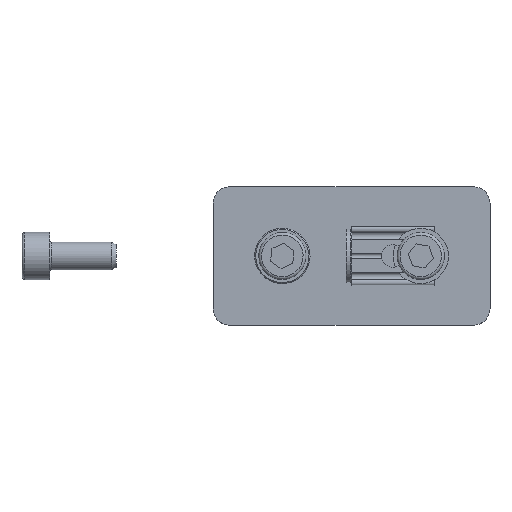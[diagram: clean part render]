
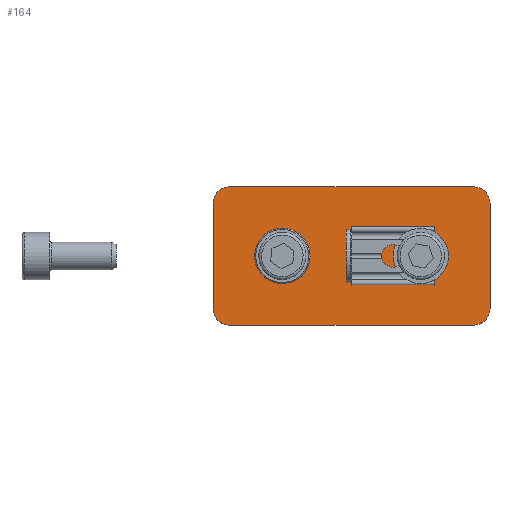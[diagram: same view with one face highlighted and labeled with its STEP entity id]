
A CAD part, top view. The second image highlights one B-rep face of the part: STEP entity #164.
In plain terms, the highlighted planar face has unit normal (0, 0, 1).
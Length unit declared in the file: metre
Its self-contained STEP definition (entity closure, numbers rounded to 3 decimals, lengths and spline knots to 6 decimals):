
#164 = ADVANCED_FACE( 'NONE', ( #241, #242, #243 ), #244, .T. );
#241 = FACE_OUTER_BOUND( '', #409, .T. );
#242 = FACE_BOUND( '', #410, .T. );
#243 = FACE_BOUND( '', #411, .T. );
#244 = PLANE( '', #412 );
#409 = EDGE_LOOP( '', ( #586, #587, #588, #589, #590, #591, #592, #593 ) );
#410 = EDGE_LOOP( '', ( #594 ) );
#411 = EDGE_LOOP( '', ( #595 ) );
#412 = AXIS2_PLACEMENT_3D( '', #596, #597, #598 );
#586 = ORIENTED_EDGE( '', *, *, #1094, .T. );
#587 = ORIENTED_EDGE( '', *, *, #1095, .T. );
#588 = ORIENTED_EDGE( '', *, *, #1096, .T. );
#589 = ORIENTED_EDGE( '', *, *, #1097, .T. );
#590 = ORIENTED_EDGE( '', *, *, #1090, .T. );
#591 = ORIENTED_EDGE( '', *, *, #1098, .T. );
#592 = ORIENTED_EDGE( '', *, *, #1099, .T. );
#593 = ORIENTED_EDGE( '', *, *, #1100, .T. );
#594 = ORIENTED_EDGE( '', *, *, #1089, .F. );
#595 = ORIENTED_EDGE( '', *, *, #1087, .F. );
#596 = CARTESIAN_POINT( '', ( -0.025, 0.0125, 0.0015 ) );
#597 = DIRECTION( '', ( 0., 0., 1. ) );
#598 = DIRECTION( '', ( 1., 0., 0. ) );
#1087 = EDGE_CURVE( 'NONE', #1240, #1240, #1241, .T. );
#1089 = EDGE_CURVE( 'NONE', #1244, #1244, #1245, .T. );
#1090 = EDGE_CURVE( 'NONE', #1246, #1247, #1248, .T. );
#1094 = EDGE_CURVE( 'NONE', #1254, #1255, #1256, .T. );
#1095 = EDGE_CURVE( 'NONE', #1255, #1257, #1258, .T. );
#1096 = EDGE_CURVE( 'NONE', #1257, #1259, #1260, .T. );
#1097 = EDGE_CURVE( 'NONE', #1259, #1246, #1261, .T. );
#1098 = EDGE_CURVE( 'NONE', #1247, #1262, #1263, .T. );
#1099 = EDGE_CURVE( 'NONE', #1262, #1264, #1265, .T. );
#1100 = EDGE_CURVE( 'NONE', #1264, #1254, #1266, .T. );
#1240 = VERTEX_POINT( '', #1501 );
#1241 = CIRCLE( '', #1502, 0.00265 );
#1244 = VERTEX_POINT( '', #1505 );
#1245 = CIRCLE( '', #1506, 0.00265 );
#1246 = VERTEX_POINT( 'NONE', #1507 );
#1247 = VERTEX_POINT( 'NONE', #1508 );
#1248 = LINE( '', #1509, #1510 );
#1254 = VERTEX_POINT( 'NONE', #1519 );
#1255 = VERTEX_POINT( 'NONE', #1520 );
#1256 = LINE( '', #1521, #1522 );
#1257 = VERTEX_POINT( 'NONE', #1523 );
#1258 = CIRCLE( '', #1524, 0.003 );
#1259 = VERTEX_POINT( 'NONE', #1525 );
#1260 = LINE( '', #1526, #1527 );
#1261 = CIRCLE( '', #1528, 0.003 );
#1262 = VERTEX_POINT( 'NONE', #1529 );
#1263 = CIRCLE( '', #1530, 0.003 );
#1264 = VERTEX_POINT( 'NONE', #1531 );
#1265 = LINE( '', #1532, #1533 );
#1266 = CIRCLE( '', #1534, 0.003 );
#1501 = CARTESIAN_POINT( '', ( 0.01515, 0., 0.0015 ) );
#1502 = AXIS2_PLACEMENT_3D( '', #1896, #1897, #1898 );
#1505 = CARTESIAN_POINT( '', ( -0.00985, 0., 0.0015 ) );
#1506 = AXIS2_PLACEMENT_3D( '', #1902, #1903, #1904 );
#1507 = CARTESIAN_POINT( '', ( 0.025, -0.0095, 0.0015 ) );
#1508 = CARTESIAN_POINT( '', ( 0.025, 0.0095, 0.0015 ) );
#1509 = CARTESIAN_POINT( '', ( 0.025, -0.0125, 0.0015 ) );
#1510 = VECTOR( '', #1905, 1. );
#1519 = CARTESIAN_POINT( '', ( -0.025, 0.0095, 0.0015 ) );
#1520 = CARTESIAN_POINT( '', ( -0.025, -0.0095, 0.0015 ) );
#1521 = CARTESIAN_POINT( '', ( -0.025, -0.0125, 0.0015 ) );
#1522 = VECTOR( '', #1909, 1. );
#1523 = CARTESIAN_POINT( '', ( -0.022, -0.0125, 0.0015 ) );
#1524 = AXIS2_PLACEMENT_3D( '', #1910, #1911, #1912 );
#1525 = CARTESIAN_POINT( '', ( 0.022, -0.0125, 0.0015 ) );
#1526 = CARTESIAN_POINT( '', ( 0.025, -0.0125, 0.0015 ) );
#1527 = VECTOR( '', #1913, 1. );
#1528 = AXIS2_PLACEMENT_3D( '', #1914, #1915, #1916 );
#1529 = CARTESIAN_POINT( '', ( 0.022, 0.0125, 0.0015 ) );
#1530 = AXIS2_PLACEMENT_3D( '', #1917, #1918, #1919 );
#1531 = CARTESIAN_POINT( '', ( -0.022, 0.0125, 0.0015 ) );
#1532 = CARTESIAN_POINT( '', ( 0.025, 0.0125, 0.0015 ) );
#1533 = VECTOR( '', #1920, 1. );
#1534 = AXIS2_PLACEMENT_3D( '', #1921, #1922, #1923 );
#1896 = CARTESIAN_POINT( '', ( 0.0125, 0., 0.0015 ) );
#1897 = DIRECTION( '', ( 0., 0., 1. ) );
#1898 = DIRECTION( '', ( 1., 0., 0. ) );
#1902 = CARTESIAN_POINT( '', ( -0.0125, 0., 0.0015 ) );
#1903 = DIRECTION( '', ( 0., 0., 1. ) );
#1904 = DIRECTION( '', ( 1., 0., 0. ) );
#1905 = DIRECTION( '', ( 0., 1., 0. ) );
#1909 = DIRECTION( '', ( 0., -1., 0. ) );
#1910 = CARTESIAN_POINT( '', ( -0.022, -0.0095, 0.0015 ) );
#1911 = DIRECTION( '', ( 0., 0., 1. ) );
#1912 = DIRECTION( '', ( 1., 0., 0. ) );
#1913 = DIRECTION( '', ( 1., 0., 0. ) );
#1914 = CARTESIAN_POINT( '', ( 0.022, -0.0095, 0.0015 ) );
#1915 = DIRECTION( '', ( 0., 0., 1. ) );
#1916 = DIRECTION( '', ( 1., 0., 0. ) );
#1917 = CARTESIAN_POINT( '', ( 0.022, 0.0095, 0.0015 ) );
#1918 = DIRECTION( '', ( 0., 0., 1. ) );
#1919 = DIRECTION( '', ( 1., 0., 0. ) );
#1920 = DIRECTION( '', ( -1., 0., 0. ) );
#1921 = CARTESIAN_POINT( '', ( -0.022, 0.0095, 0.0015 ) );
#1922 = DIRECTION( '', ( 0., 0., 1. ) );
#1923 = DIRECTION( '', ( 1., 0., 0. ) );
